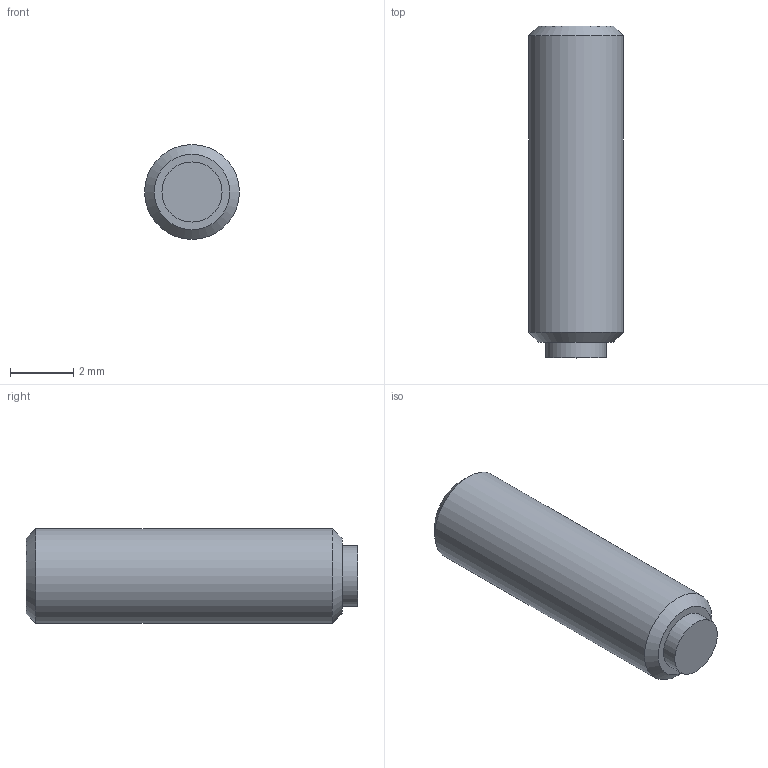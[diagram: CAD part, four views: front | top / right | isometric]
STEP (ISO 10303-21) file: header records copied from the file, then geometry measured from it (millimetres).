
FILE_DESCRIPTION( ( 'STEP AP203' ), '1' );
FILE_NAME( 'C:/Temp/Ganter_Step_05_03_2020/data/3_2/gn913_3/Grub screw GN 913.3-M3-10-MS.stp', '2020-03-13T05:35:44', ( 'License CC BY-ND 4.0' ), ( 'CADENAS' ), ' ', 'PARTsolutions', ' ' );
FILE_SCHEMA( ( 'CONFIG_CONTROL_DESIGN' ) );
Length unit declared in the file: millimetre
Products named in the file (1): _Grub screw GN 913.3-M3-10-MS
Bounding box: 3 x 10.5 x 3 mm (x, y, z)
Volume: 68.4 mm3; surface area: 115.5 mm2
Topology: 1 solids, 1 shells, 14 faces, 28 edges, 18 vertices
Faces by surface type: plane 10, cylinder 2, cone 2
Full cylindrical faces by diameter (mm): 1.9 x1, 3 x1
Entity records: 386 total; most frequent: DIRECTION 60, CARTESIAN_POINT 57, ORIENTED_EDGE 48, EDGE_CURVE 24, AXIS2_PLACEMENT_3D 21, EDGE_LOOP 20, VERTEX_POINT 18, LINE 18
